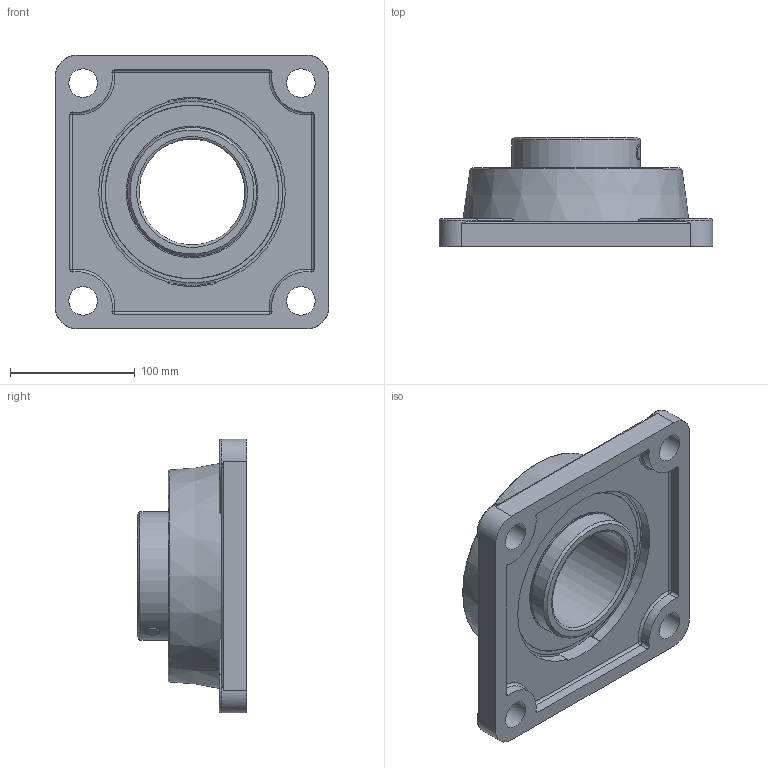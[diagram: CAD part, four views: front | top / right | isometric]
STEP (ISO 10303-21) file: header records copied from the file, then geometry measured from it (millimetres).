
FILE_DESCRIPTION(/* description */ (''),/* implementation_level */ '2;1');
FILE_NAME(/* name */ 'C:\MOJE SUBORY\03_Doplnenie 3D modelov\fgc\FGC217.stp',/* time_stamp */ '2020-12-09T14:13:23+01:00',/* author */ ('OUPIONTEKM'),/* organization */ (''),/* preprocessor_version */ 'ST-DEVELOPER v18.1',/* originating_system */ 'Autodesk Inventor 2021',/* authorisation */ '');
FILE_SCHEMA (('AUTOMOTIVE_DESIGN { 1 0 10303 214 3 1 1 }'));
Length unit declared in the file: millimetre
Products named in the file (3): FGC208; FG208; UC217
Assembly tree (2 placements, depth 2):
  FGC208
    FG208
    UC217
Bounding box: 220 x 87.6 x 220 mm (x, y, z)
Volume: 1158109.3 mm3; surface area: 320491.5 mm2
Topology: 19 solids, 19 shells, 236 faces, 688 edges, 446 vertices
Faces by surface type: plane 92, cylinder 73, sphere 51, torus 13, cone 7
Full cylindrical faces by diameter (mm): 2.5 x2, 12 x4, 23 x4, 85 x1, 103.679 x6, 105.679 x2, 111.577 x2, 123.423 x2, 131.321 x2, 139.221 x2, 139.821 x4, 149.86 x1, 152.719 x1
Entity records: 9543 total; most frequent: CARTESIAN_POINT 3189, DIRECTION 1408, ORIENTED_EDGE 1272, EDGE_CURVE 636, AXIS2_PLACEMENT_3D 629, VERTEX_POINT 446, CIRCLE 388, EDGE_LOOP 274
